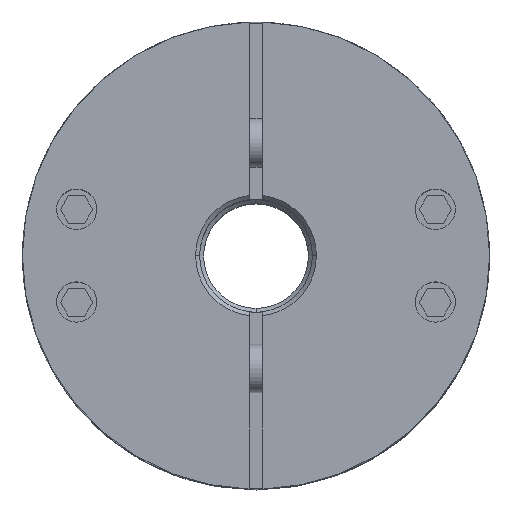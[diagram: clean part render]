
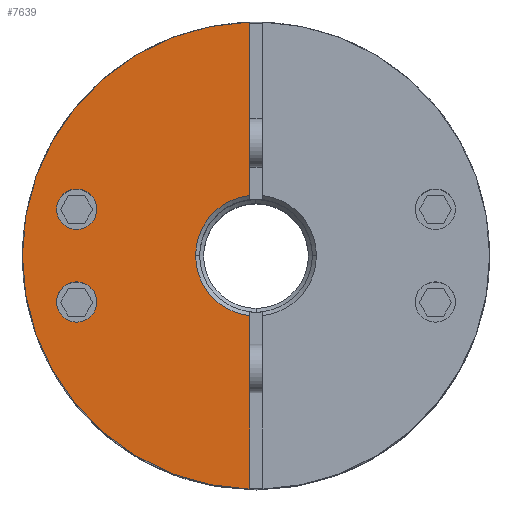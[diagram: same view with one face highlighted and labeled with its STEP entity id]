
A CAD part, top view. The second image highlights one B-rep face of the part: STEP entity #7639.
In plain terms, the highlighted planar face has unit normal (0, 0, 1).
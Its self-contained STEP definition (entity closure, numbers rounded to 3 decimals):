
#4237=CARTESIAN_POINT('',(-19.767,-5.759,27.125));
#4238=VERTEX_POINT('',#4237);
#4247=CARTESIAN_POINT('',(-24.767,-5.759,27.125));
#4248=VERTEX_POINT('',#4247);
#4249=CARTESIAN_POINT('',(-22.267,-5.759,27.125));
#4250=DIRECTION('',(0.0,0.0,-1.0));
#4251=DIRECTION('',(1.0,0.0,0.0));
#4252=AXIS2_PLACEMENT_3D('',#4249,#4250,#4251);
#4253=CIRCLE('',#4252,2.5);
#4254=EDGE_CURVE('',#4248,#4238,#4253,.T.);
#4363=CARTESIAN_POINT('',(-19.767,5.759,27.125));
#4364=VERTEX_POINT('',#4363);
#4373=CARTESIAN_POINT('',(-24.767,5.759,27.125));
#4374=VERTEX_POINT('',#4373);
#4375=CARTESIAN_POINT('',(-22.267,5.759,27.125));
#4376=DIRECTION('',(0.0,0.0,-1.0));
#4377=DIRECTION('',(1.0,0.0,0.0));
#4378=AXIS2_PLACEMENT_3D('',#4375,#4376,#4377);
#4379=CIRCLE('',#4378,2.5);
#4380=EDGE_CURVE('',#4374,#4364,#4379,.T.);
#4592=CARTESIAN_POINT('',(-29.0,0.,27.125));
#4593=VERTEX_POINT('',#4592);
#4600=CARTESIAN_POINT('',(-0.75,28.99,27.125));
#4601=VERTEX_POINT('',#4600);
#4602=CARTESIAN_POINT('',(0.0,0.0,27.125));
#4603=DIRECTION('',(0.0,0.0,-1.0));
#4604=DIRECTION('',(1.0,0.0,0.0));
#4605=AXIS2_PLACEMENT_3D('',#4602,#4603,#4604);
#4606=CIRCLE('',#4605,29.0);
#4607=EDGE_CURVE('',#4593,#4601,#4606,.T.);
#4958=CARTESIAN_POINT('',(-7.5,0.,27.125));
#4959=VERTEX_POINT('',#4958);
#4975=CARTESIAN_POINT('',(-0.75,7.462,27.125));
#4976=VERTEX_POINT('',#4975);
#4990=CARTESIAN_POINT('',(0.0,0.0,27.125));
#4991=DIRECTION('',(0.0,0.0,1.0));
#4992=DIRECTION('',(-1.0,0.0,0.0));
#4993=AXIS2_PLACEMENT_3D('',#4990,#4991,#4992);
#4994=CIRCLE('',#4993,7.5);
#4995=EDGE_CURVE('',#4976,#4959,#4994,.T.);
#7392=CARTESIAN_POINT('',(-0.75,-7.462,27.125));
#7393=VERTEX_POINT('',#7392);
#7394=CARTESIAN_POINT('',(0.0,0.0,27.125));
#7395=DIRECTION('',(0.0,0.0,1.0));
#7396=DIRECTION('',(-1.0,0.0,0.0));
#7397=AXIS2_PLACEMENT_3D('',#7394,#7395,#7396);
#7398=CIRCLE('',#7397,7.5);
#7399=EDGE_CURVE('',#4959,#7393,#7398,.T.);
#7432=CARTESIAN_POINT('',(-0.75,7.462,27.125));
#7433=DIRECTION('',(0.0,1.0,0.0));
#7434=VECTOR('',#7433,21.528);
#7435=LINE('',#7432,#7434);
#7436=EDGE_CURVE('',#4976,#4601,#7435,.T.);
#7546=CARTESIAN_POINT('',(-0.75,-28.99,27.125));
#7547=VERTEX_POINT('',#7546);
#7548=CARTESIAN_POINT('',(-0.75,-28.99,27.125));
#7549=DIRECTION('',(0.0,1.0,0.0));
#7550=VECTOR('',#7549,21.528);
#7551=LINE('',#7548,#7550);
#7552=EDGE_CURVE('',#7547,#7393,#7551,.T.);
#7600=CARTESIAN_POINT('',(2.636,0.,27.125));
#7601=DIRECTION('',(0.0,0.0,1.0));
#7602=DIRECTION('',(1.0,0.0,0.0));
#7603=AXIS2_PLACEMENT_3D('',#7600,#7601,#7602);
#7604=PLANE('',#7603);
#7605=ORIENTED_EDGE('',*,*,#4995,.F.);
#7606=ORIENTED_EDGE('',*,*,#7436,.T.);
#7607=ORIENTED_EDGE('',*,*,#4607,.F.);
#7608=CARTESIAN_POINT('',(0.0,0.0,27.125));
#7609=DIRECTION('',(0.0,0.0,-1.0));
#7610=DIRECTION('',(1.0,0.0,0.0));
#7611=AXIS2_PLACEMENT_3D('',#7608,#7609,#7610);
#7612=CIRCLE('',#7611,29.0);
#7613=EDGE_CURVE('',#7547,#4593,#7612,.T.);
#7614=ORIENTED_EDGE('',*,*,#7613,.F.);
#7615=ORIENTED_EDGE('',*,*,#7552,.T.);
#7616=ORIENTED_EDGE('',*,*,#7399,.F.);
#7617=EDGE_LOOP('',(#7605,#7606,#7607,#7614,#7615,#7616));
#7618=FACE_OUTER_BOUND('',#7617,.T.);
#7619=CARTESIAN_POINT('',(-22.267,-5.759,27.125));
#7620=DIRECTION('',(0.0,0.0,-1.0));
#7621=DIRECTION('',(1.0,0.0,0.0));
#7622=AXIS2_PLACEMENT_3D('',#7619,#7620,#7621);
#7623=CIRCLE('',#7622,2.5);
#7624=EDGE_CURVE('',#4238,#4248,#7623,.T.);
#7625=ORIENTED_EDGE('',*,*,#7624,.T.);
#7626=ORIENTED_EDGE('',*,*,#4254,.T.);
#7627=EDGE_LOOP('',(#7625,#7626));
#7628=FACE_BOUND('',#7627,.T.);
#7629=CARTESIAN_POINT('',(-22.267,5.759,27.125));
#7630=DIRECTION('',(0.0,0.0,-1.0));
#7631=DIRECTION('',(1.0,0.0,0.0));
#7632=AXIS2_PLACEMENT_3D('',#7629,#7630,#7631);
#7633=CIRCLE('',#7632,2.5);
#7634=EDGE_CURVE('',#4364,#4374,#7633,.T.);
#7635=ORIENTED_EDGE('',*,*,#7634,.T.);
#7636=ORIENTED_EDGE('',*,*,#4380,.T.);
#7637=EDGE_LOOP('',(#7635,#7636));
#7638=FACE_BOUND('',#7637,.T.);
#7639=ADVANCED_FACE('',(#7618,#7628,#7638),#7604,.T.);
